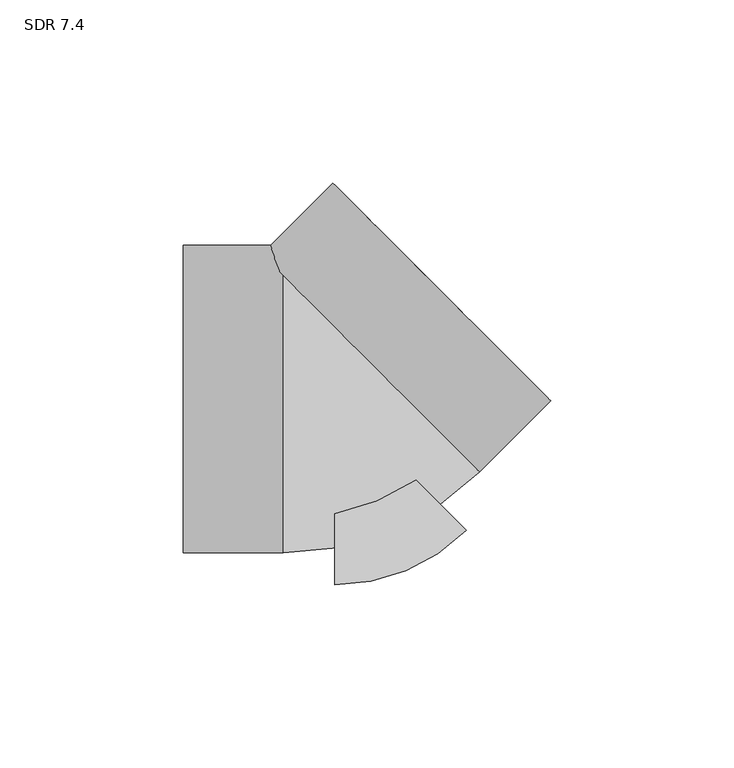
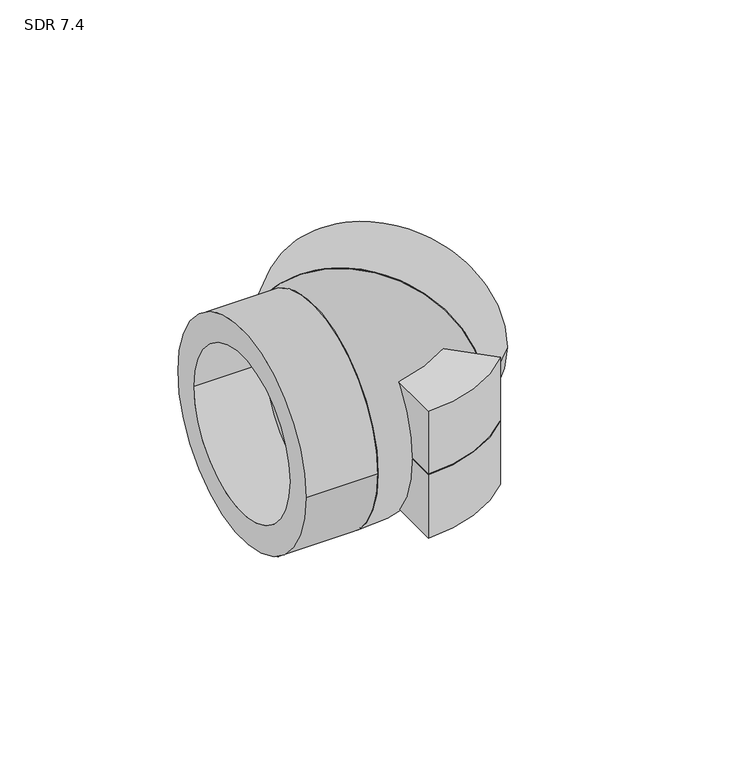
"""IFC4 building model written with IfcOpenShell, lengths in millimetres: pipe fitting geometry, Aquatherm - Elbow Socket : SDR 7.4."""

from ifc_helpers import new_model, si_unit, point, frame, origin, origin_with_axes, origin_2d, place, context, project, spatial, polyline, circle_curve, ellipse_curve, trimmed, segment, composite_curve, outline, extrude, source, transform, mapped, element, save
from ifc_brep_helpers import plane_surface, revolved_surface, advanced_brep


def sdr_7_4_3d6d3952(model_context):
    return source(origin(), model_context, "Body", "SolidModel", [
        extrude(outline(composite_curve([segment(polyline([(0.0, -50.8), (0.0, 0.0), (35.9210245, -35.9210245)]), True, "CONTINUOUS"), segment(trimmed(circle_curve(origin_2d(), 50.8), [point((35.9210245, -35.9210245))], [point((0.0, -50.8))], False, "CARTESIAN"), True, "CONTINUOUS")], self_intersect=False)), frame((0.0, 0.0, -25.4), z_axis=(0.0, 0.0, 1.0), x_axis=(1.0, 0.0, 0.0)), (0.0, 0.0, 1.0), 25.4),
        extrude(outline(composite_curve([segment(trimmed(circle_curve(origin_2d(), 50.8), [point((35.9210245, -35.9210245))], [point((0.0, -50.8))], False, "CARTESIAN"), True, "CONTINUOUS"), segment(polyline([(0.0, -50.8), (0.0, 0.0), (35.9210245, -35.9210245)]), True, "CONTINUOUS")], self_intersect=False)), origin_with_axes(), (0.0, 0.0, 1.0), 25.4),
        extrude(outline(composite_curve([segment(trimmed(circle_curve(origin_2d(), 42.037), [point((0.0, 42.037))], [point((0.0, -42.037))], False, "CARTESIAN"), True, "CONTINUOUS"), segment(trimmed(circle_curve(origin_2d(), 42.037), [point((0.0, -42.037))], [point((0.0, 42.037))], False, "CARTESIAN"), True, "CONTINUOUS")], self_intersect=False), holes=[composite_curve([segment(trimmed(circle_curve(origin_2d(), 31.496), [point((0.0, 31.496))], [point((0.0, -31.496))], True, "CARTESIAN"), True, "CONTINUOUS"), segment(trimmed(circle_curve(origin_2d(), 31.496), [point((0.0, -31.496))], [point((0.0, 31.496))], True, "CARTESIAN"), True, "CONTINUOUS")], self_intersect=False)]), frame((9.8782817, 9.8782817, 0.0), z_axis=(0.7071067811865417, 0.7071067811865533, 0.0), x_axis=(0.0, 0.0, 1.0)), (0.0, 0.0, 1.0), 27.432),
        advanced_brep(
        [(-13.97, 33.7265635, -25.092395), (-13.97, 33.7265635, 25.092395), (-13.97, -22.7471111, 0.0), (-13.97, 22.7471111, 0.0), (25.9629183, -6.2063548, 0.0), (-6.2063548, 25.9629183, 0.0)],
        [
            (0, 1, circle_curve(frame((-13.97, 0.0, 0.0), z_axis=(-1.0, 0.0, 0.0), x_axis=(0.0, 1.0, 0.0)), 42.037)),
            (1, 0),
            (2, 3, circle_curve(frame((-13.97, 0.0, 0.0), z_axis=(1.0, 0.0, 0.0), x_axis=(0.0, 1.0, 0.0)), 22.7471111)),
            (3, 2, circle_curve(frame((-13.97, 0.0, 0.0), z_axis=(1.0, 0.0, 0.0), x_axis=(0.0, 1.0, 0.0)), 22.7471111)),
            (1, 0, circle_curve(frame((9.8782817, 9.8782817, 0.0), z_axis=(0.7071067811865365, 0.7071067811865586, 0.0), x_axis=(-0.7071067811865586, 0.7071067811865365, 0.0)), 42.037)),
            (4, 5, circle_curve(frame((9.8782817, 9.8782817, 0.0), z_axis=(-0.7071067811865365, -0.7071067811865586, 0.0), x_axis=(-0.7071067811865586, 0.7071067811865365, 0.0)), 22.7471111)),
            (5, 4, circle_curve(frame((9.8782817, 9.8782817, 0.0), z_axis=(-0.7071067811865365, -0.7071067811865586, 0.0), x_axis=(-0.7071067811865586, 0.7071067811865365, 0.0)), 22.7471111)),
            (5, 3, circle_curve(frame((-13.97, 33.7265635, 0.0), z_axis=(0.0, 0.0, -1.0), x_axis=(0.0, -1.0, 0.0)), 10.9794524)),
            (2, 4, circle_curve(frame((-13.97, 33.7265635, 0.0), z_axis=(0.0, 0.0, 1.0), x_axis=(0.0, -1.0, 0.0)), 56.4736746)),
        ],
        [
            plane_surface(frame((-13.97, 33.7265635, 82.242395), z_axis=(-1.0, 0.0, 0.0), x_axis=(0.0, -1.0, 0.0))),
            plane_surface(frame((-13.97, 33.7265635, 82.242395), z_axis=(0.7071067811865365, 0.7071067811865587, 0.0), x_axis=(0.7071067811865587, -0.7071067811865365, 0.0))),
            revolved_surface(trimmed(ellipse_curve(frame((-13.97, 0.0, 0.0), z_axis=(1.0, 0.0, 0.0), x_axis=(0.0, 1.0, 0.0)), 42.037, 42.037), [point((-13.97, 33.7265635, 25.092395))], [point((-13.97, 33.7265635, -25.092395))], True, "CARTESIAN"), (-13.97, 33.7265635, 82.242395), (0.0, 0.0, -1.0)),
            revolved_surface(trimmed(ellipse_curve(frame((-13.97, 0.0, 0.0), z_axis=(-1.0, 0.0, 0.0), x_axis=(0.0, 1.0, 0.0)), 22.7471111, 22.7471111), [point((-13.97, 22.7471111, 0.0))], [point((-13.97, -22.7471111, 0.0))], True, "CARTESIAN"), (-13.97, 33.7265635, 82.242395), (0.0, 0.0, -1.0)),
            revolved_surface(trimmed(ellipse_curve(frame((-13.97, 0.0, 0.0), z_axis=(-1.0, 0.0, 0.0), x_axis=(0.0, 1.0, 0.0)), 22.7471111, 22.7471111), [point((-13.97, -22.7471111, 0.0))], [point((-13.97, 22.7471111, 0.0))], True, "CARTESIAN"), (-13.97, 33.7265635, 82.242395), (0.0, 0.0, -1.0)),
        ],
        [
            (0, [[1, 2], [3, 4]]),
            (1, [[5, -2], [6, 7]]),
            (2, [[-1, -5]]),
            (3, [[8, -3, 9, -7]]),
            (4, [[-9, -4, -8, -6]]),
        ],
    ),
        extrude(outline(composite_curve([segment(trimmed(circle_curve(origin_2d(), 42.037), [point((42.037, 0.0))], [point((-42.037, 0.0))], False, "CARTESIAN"), True, "CONTINUOUS"), segment(trimmed(circle_curve(origin_2d(), 42.037), [point((-42.037, 0.0))], [point((42.037, 0.0))], False, "CARTESIAN"), True, "CONTINUOUS")], self_intersect=False), holes=[composite_curve([segment(trimmed(circle_curve(origin_2d(), 31.496), [point((31.496, 0.0))], [point((-31.496, 0.0))], True, "CARTESIAN"), True, "CONTINUOUS"), segment(trimmed(circle_curve(origin_2d(), 31.496), [point((-31.496, 0.0))], [point((31.496, 0.0))], True, "CARTESIAN"), True, "CONTINUOUS")], self_intersect=False)]), frame((-41.402, 0.0, 0.0), z_axis=(1.0, 0.0, 0.0), x_axis=(0.0, 1.0, 0.0)), (0.0, 0.0, 1.0), 27.432),
    ])


if __name__ == "__main__":
    model = new_model("IFC4")
    model_context = context("Model", 3, world=origin())
    ifc_project = project(units=[si_unit("LENGTHUNIT", "METRE", prefix="MILLI")], contexts=[model_context])
    site = spatial("IfcSite", under=ifc_project)
    building = spatial("IfcBuilding", under=site)
    placement = place(None, origin())
    sdr_7_4_shape = sdr_7_4_3d6d3952(model_context)
    element("IfcPipeFitting", 1, ObjectType="Aquatherm - Elbow Socket : SDR 7.4", at=placement, inside=building, context=model_context, shape_type="MappedRepresentation", body=[
        mapped(sdr_7_4_shape, transform((0.0, 0.0, 0.0), x_axis=(1.0, 0.0, 0.0), y_axis=(0.0, 1.0, 0.0), z_axis=(0.0, 0.0, 1.0))),
    ])
    save(model, "model.ifc")
